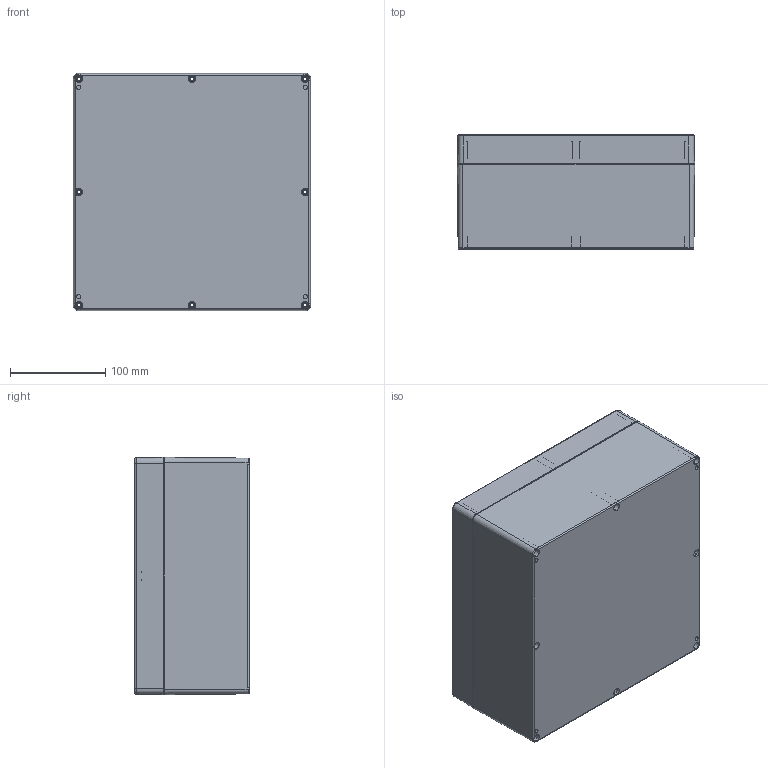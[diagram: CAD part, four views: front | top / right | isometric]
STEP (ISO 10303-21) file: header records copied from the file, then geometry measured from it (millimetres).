
FILE_DESCRIPTION (( 'STEP AP203' ), '1' );
FILE_NAME ('PE269.STEP', '2020-01-30T05:45:00', ( '' ), ( '' ), 'SwSTEP 2.0', 'SolidWorks 2020', '' );
FILE_SCHEMA (( 'CONFIG_CONTROL_DESIGN' ));
Length unit declared in the file: millimetre
Products named in the file (4): PE269
Assembly tree (3 placements, depth 2):
  PE269
    PE269
    PE269
    PE269
Bounding box: 249.68 x 120.2 x 249.68 mm (x, y, z)
Volume: 1130176.3 mm3; surface area: 656078.9 mm2
Topology: 15 solids, 15 shells, 2389 faces, 6403 edges, 4178 vertices
Faces by surface type: bspline 696, cylinder 650, plane 550, cone 489, torus 4
Entity records: 83783 total; most frequent: CARTESIAN_POINT 27318, ORIENTED_EDGE 12770, DIRECTION 10413, EDGE_CURVE 6385, VERTEX_POINT 4178, AXIS2_PLACEMENT_3D 3893, EDGE_LOOP 2645, VECTOR 2627
